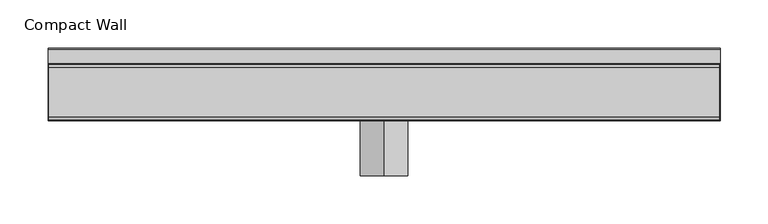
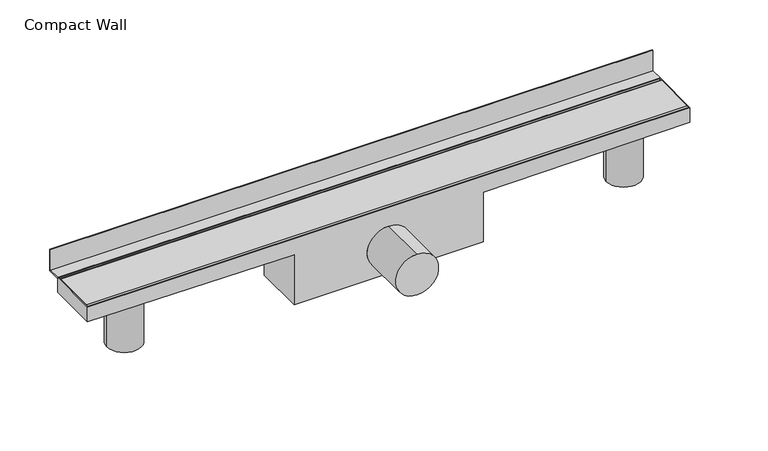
"""IFC4 building model written with IfcOpenShell, lengths in millimetres: sanitary terminal geometry, NLRS_PF_52_UN_Compact_Easydrain : Compact Wall."""

import ifcopenshell
import ifcopenshell.guid

model = None  # the IFC model being written
_history = None  # IfcOwnerHistory: only IFC2X3 demands one
_inside = {}  # id of a spatial element -> (the spatial element, [elements in it])
_under = {}  # id of a project, library or spatial element -> (it, [spatial elements below it])
_declared = {}  # id of a project -> (the project, [libraries it declares])
_typed = {}  # id of a type object -> (the type object, [elements of that type])
_made_of = {}  # id of a material, layer set ... -> (it, [elements and type objects made of it])


def new_model(schema):
    """Start an empty IFC model of exactly this schema.

    Asked for "IFC4X3", IfcOpenShell would pick the latest addendum, in which some entities
    have other attributes; the version numbers below select the first issue.
    IFC2X3 requires an IfcOwnerHistory on every rooted entity: one is made here for all.
    """
    global model, _history
    if schema == "IFC4X3":
        model = ifcopenshell.file(schema_version=(4, 3, 0, 0))
    else:
        model = ifcopenshell.file(schema=schema)
    _inside.clear()
    _under.clear()
    _declared.clear()
    _typed.clear()
    _made_of.clear()
    _history = None
    if model.schema == "IFC2X3":
        org = make("IfcOrganization", Name="unknown")
        user = make(
            "IfcPersonAndOrganization",
            ThePerson=make("IfcPerson", FamilyName="unknown"),
            TheOrganization=org,
        )
        app = make(
            "IfcApplication",
            ApplicationDeveloper=org,
            Version="unknown",
            ApplicationFullName="unknown",
            ApplicationIdentifier="unknown",
        )
        _history = make(
            "IfcOwnerHistory",
            OwningUser=user,
            OwningApplication=app,
            ChangeAction="ADDED",
            CreationDate=0,
        )
    return model


def make(cls, **values):
    """One entity of the class cls with the attributes given. An attribute that is None is left unset."""
    return model.create_entity(
        cls, **{name: value for name, value in values.items() if value is not None}
    )


def rooted(cls, **values):
    """An entity with a GlobalId (a new one), such as an element, a storey or a relation."""
    return make(cls, GlobalId=ifcopenshell.guid.new(), OwnerHistory=_history, **values)


def si_unit(unit_type, name, prefix=None):
    """IfcSIUnit, for example si_unit("LENGTHUNIT", "METRE", prefix="MILLI")."""
    return make("IfcSIUnit", UnitType=unit_type, Prefix=prefix, Name=name)


def assignment(units):
    """IfcUnitAssignment: the units of a project."""
    return None if units is None else make("IfcUnitAssignment", Units=units)


def point(xyz):
    """IfcCartesianPoint."""
    return None if xyz is None else make("IfcCartesianPoint", Coordinates=xyz)


def direction(xyz):
    """IfcDirection."""
    return None if xyz is None else make("IfcDirection", DirectionRatios=xyz)


def frame(location, z_axis=None, x_axis=None):
    """IfcAxis2Placement3D, a coordinate frame: its origin and axes. An axis left out is left unset."""
    return make(
        "IfcAxis2Placement3D",
        Location=point(location),
        Axis=direction(z_axis),
        RefDirection=direction(x_axis),
    )


def frame_2d(location, x_axis=None):
    """IfcAxis2Placement2D, a coordinate frame in the plane: its origin and x axis."""
    return make(
        "IfcAxis2Placement2D", Location=point(location), RefDirection=direction(x_axis)
    )


def origin():
    """The frame at (0, 0, 0) with its axes left unset."""
    return frame((0.0, 0.0, 0.0))


def place(relative_to, where):
    """IfcLocalPlacement: puts the frame where relative to a parent placement (None: the world)."""
    return make(
        "IfcLocalPlacement", PlacementRelTo=relative_to, RelativePlacement=where
    )


def context(
    kind, dimensions, precision=None, world=None, true_north=None, identifier=None
):
    """IfcGeometricRepresentationContext, for example the 3D "Model" context."""
    return make(
        "IfcGeometricRepresentationContext",
        ContextIdentifier=identifier,
        ContextType=kind,
        CoordinateSpaceDimension=dimensions,
        Precision=precision,
        WorldCoordinateSystem=world,
        TrueNorth=true_north,
    )


def project(units=None, contexts=None):
    """IfcProject with its units and contexts."""
    return rooted(
        "IfcProject",
        Name="project",
        RepresentationContexts=contexts,
        UnitsInContext=assignment(units),
    )


def spatial(cls, under=None, at=None, **own):
    """A site, building, storey or space (cls), placed at a placement, below another one or the project."""
    s = rooted(cls, ObjectPlacement=at, **own)
    if under is not None:
        _under.setdefault(under.id(), (under, []))[1].append(s)
    return s


def polyline(points):
    """IfcPolyline through the points."""
    return make("IfcPolyline", Points=[point(p) for p in points])


def circle_curve(where, radius):
    """IfcCircle in the frame where."""
    return make("IfcCircle", Position=where, Radius=radius)


def trimmed(basis, trim1, trim2, sense, master):
    """IfcTrimmedCurve: the piece of a basis curve between two trims."""
    return make(
        "IfcTrimmedCurve",
        BasisCurve=basis,
        Trim1=trim1,
        Trim2=trim2,
        SenseAgreement=sense,
        MasterRepresentation=master,
    )


def segment(curve, same_sense, transition):
    """IfcCompositeCurveSegment."""
    return make(
        "IfcCompositeCurveSegment",
        Transition=transition,
        SameSense=same_sense,
        ParentCurve=curve,
    )


def composite_curve(segments, self_intersect=None):
    """IfcCompositeCurve: segments joined end to end."""
    return make("IfcCompositeCurve", Segments=segments, SelfIntersect=self_intersect)


def outline(outer, holes=None, kind="AREA"):
    """IfcArbitraryClosedProfileDef: a profile drawn as a closed curve; with holes, ...WithVoids."""
    if holes is None:
        return make("IfcArbitraryClosedProfileDef", ProfileType=kind, OuterCurve=outer)
    return make(
        "IfcArbitraryProfileDefWithVoids",
        ProfileType=kind,
        OuterCurve=outer,
        InnerCurves=holes,
    )


def extrude(swept, where, along, depth):
    """IfcExtrudedAreaSolid: the profile swept, set in the frame where, extruded along a direction by depth."""
    return make(
        "IfcExtrudedAreaSolid",
        SweptArea=swept,
        Position=where,
        ExtrudedDirection=direction(along),
        Depth=depth,
    )


def shape(context_of_items, identifier, shape_type, items):
    """IfcShapeRepresentation: the items that make up one representation, for example the "Body"."""
    return make(
        "IfcShapeRepresentation",
        ContextOfItems=context_of_items,
        RepresentationIdentifier=identifier,
        RepresentationType=shape_type,
        Items=items,
    )


def source(mapping_origin, context_of_items, identifier, shape_type, items):
    """IfcRepresentationMap: a shape defined once, which mapped items show again and again."""
    return make(
        "IfcRepresentationMap",
        MappingOrigin=mapping_origin,
        MappedRepresentation=shape(context_of_items, identifier, shape_type, items),
    )


def transform(
    local_origin,
    x_axis=None,
    y_axis=None,
    z_axis=None,
    scale=None,
    scale2=None,
    scale3=None,
    uniform=True,
):
    """IfcCartesianTransformationOperator3D, or its non-uniform kind. x_axis, y_axis, z_axis: its Axis1, 2, 3."""
    if uniform:
        return make(
            "IfcCartesianTransformationOperator3D",
            Axis1=direction(x_axis),
            Axis2=direction(y_axis),
            LocalOrigin=point(local_origin),
            Scale=scale,
            Axis3=direction(z_axis),
        )
    return make(
        "IfcCartesianTransformationOperator3DnonUniform",
        Axis1=direction(x_axis),
        Axis2=direction(y_axis),
        LocalOrigin=point(local_origin),
        Scale=scale,
        Axis3=direction(z_axis),
        Scale2=scale2,
        Scale3=scale3,
    )


def mapped(mapping_source, mapping_target):
    """IfcMappedItem: shows the shape of a source again, moved by a transform."""
    return make(
        "IfcMappedItem", MappingSource=mapping_source, MappingTarget=mapping_target
    )


def made_of(thing, what):
    """Note that an element or type object is made of a material, layer set ...; save() writes the relation."""
    if what is not None:
        _made_of.setdefault(what.id(), (what, []))[1].append(thing)
    return thing


def element(
    cls,
    number,
    at=None,
    inside=None,
    cuts=None,
    type_object=None,
    material=None,
    context=None,
    identifier="Body",
    shape_type=None,
    held_by="IfcProductDefinitionShape",
    body=None,
    shapes=None,
    **own,
):
    """One element of the class cls, such as IfcWall. Its Tag is "e" and its number.

    at: its placement. inside: the storey or other place that contains it. cuts: it is an
    opening in that element (IfcRelVoidsElement). A single representation is given by context,
    identifier, shape_type and body (its items); several are given by shapes. held_by: the class
    of the entity that holds the representations. save() writes the other relations.
    """
    e = rooted(cls, Tag="e%d" % number, ObjectPlacement=at, **own)
    if body is not None:
        shapes = [shape(context, identifier, shape_type, body)]
    if shapes is not None:
        e.Representation = make(held_by, Representations=shapes)
    if inside is not None:
        _inside.setdefault(inside.id(), (inside, []))[1].append(e)
    if cuts is not None:
        rooted(
            "IfcRelVoidsElement", RelatingBuildingElement=cuts, RelatedOpeningElement=e
        )
    if type_object is not None:
        _typed.setdefault(type_object.id(), (type_object, []))[1].append(e)
    return made_of(e, material)


def aggregate(whole, parts):
    """IfcRelAggregates: a whole, such as a stair, and the parts it consists of."""
    return rooted("IfcRelAggregates", RelatingObject=whole, RelatedObjects=parts)


def save(model, path):
    """Write the relations noted so far, then the file.

    IfcRelAggregates (storeys below a building ...), IfcRelContainedInSpatialStructure (elements
    in a storey), IfcRelDefinesByType, IfcRelAssociatesMaterial and IfcRelDeclares: one each for
    every whole, place, type object, material and project.
    """
    for whole, parts in _under.values():
        aggregate(whole, parts)
    for where, things in _inside.values():
        rooted(
            "IfcRelContainedInSpatialStructure",
            RelatedElements=things,
            RelatingStructure=where,
        )
    for kind, things in _typed.values():
        rooted("IfcRelDefinesByType", RelatedObjects=things, RelatingType=kind)
    for what, things in _made_of.values():
        rooted("IfcRelAssociatesMaterial", RelatedObjects=things, RelatingMaterial=what)
    for by, libraries in _declared.values():
        rooted("IfcRelDeclares", RelatingContext=by, RelatedDefinitions=libraries)
    model.write(path)


def plane_surface(at):
    """IfcPlane: the flat surface through the origin of the frame at, square to its z axis."""
    return make("IfcPlane", Position=at)


def cylinder_surface(at, radius):
    """IfcCylindricalSurface: all points at the distance radius from the z axis of the frame at."""
    return make("IfcCylindricalSurface", Position=at, Radius=radius)


def advanced_brep(points, edges, surfaces, faces):
    """IfcAdvancedBrep: a solid bounded by faces that lie on surfaces and meet in shared edges.

    An edge is (start, end): straight between two places in points (the first is 0);
    or (start, end, curve); or (start, end, curve, False) where it runs against its curve.
    A face is (place in surfaces, loops), or (place, loops, False) where it looks against
    its surface's normal. A loop lists edges by number (the first is 1), with a minus sign
    where the edge is run from its end to its start. The first loop is the outer one.
    """
    corners = [point(p) for p in points]
    vertices = [make("IfcVertexPoint", VertexGeometry=c) for c in corners]
    made = []
    for start, end, *more in edges:
        made.append(
            make(
                "IfcEdgeCurve",
                EdgeStart=vertices[start],
                EdgeEnd=vertices[end],
                EdgeGeometry=more[0] if more else make("IfcPolyline", Points=[corners[start], corners[end]]),
                SameSense=more[1] if len(more) > 1 else True,
            )
        )
    hull = []
    for where, loops, *sense in faces:
        bounds = []
        for j, loop in enumerate(loops):
            ring = [make("IfcOrientedEdge", EdgeElement=made[abs(k) - 1], Orientation=k > 0) for k in loop]
            bounds.append(
                make(
                    "IfcFaceOuterBound" if j == 0 else "IfcFaceBound",
                    Bound=make("IfcEdgeLoop", EdgeList=ring),
                    Orientation=True,
                )
            )
        hull.append(make("IfcAdvancedFace", Bounds=bounds, FaceSurface=surfaces[where], SameSense=sense[0] if sense else True))
    return make("IfcAdvancedBrep", Outer=make("IfcClosedShell", CfsFaces=hull))


def compact_wall_7a272a64(model_context):
    return source(origin(), model_context, "Body", "SolidModel", [
        extrude(outline(composite_curve([segment(polyline([(-25.5, 0.0), (25.5, 0.0)]), True, "CONTINUOUS"), segment(trimmed(circle_curve(frame_2d((25.5, -3.0)), 3.0), [point((25.5, 0.0))], [point((28.5, -3.0))], False, "CARTESIAN"), True, "CONTINUOUS"), segment(polyline([(28.5, -3.0), (28.5, -12.0), (-28.5, -12.0), (-28.5, -3.0)]), True, "CONTINUOUS"), segment(trimmed(circle_curve(frame_2d((-25.5, -3.0)), 3.0), [point((-28.5, -3.0))], [point((-25.5, 0.0))], False, "CARTESIAN"), True, "CONTINUOUS")], self_intersect=False)), frame((-249.0, 0.0, 0.0), z_axis=(1.0, 0.0, 0.0), x_axis=(0.0, 1.0, 0.0)), (0.0, 0.0, 1.0), 698.0),
        extrude(outline(composite_curve([segment(trimmed(circle_curve(frame_2d((390.0, 0.0)), 20.0), [point((410.0, 0.0))], [point((370.0, 0.0))], False, "CARTESIAN"), True, "CONTINUOUS"), segment(trimmed(circle_curve(frame_2d((390.0, 0.0)), 20.0), [point((370.0, 0.0))], [point((410.0, 0.0))], False, "CARTESIAN"), True, "CONTINUOUS")], self_intersect=False)), frame((0.0, 0.0, -81.0), z_axis=(0.0, 0.0, 1.0), x_axis=(1.0, 0.0, 0.0)), (0.0, 0.0, 1.0), 63.0),
        extrude(outline(composite_curve([segment(trimmed(circle_curve(frame_2d((-190.0, 0.0)), 20.0), [point((-210.0, 0.0))], [point((-170.0, 0.0))], False, "CARTESIAN"), True, "CONTINUOUS"), segment(trimmed(circle_curve(frame_2d((-190.0, 0.0)), 20.0), [point((-170.0, 0.0))], [point((-210.0, 0.0))], False, "CARTESIAN"), True, "CONTINUOUS")], self_intersect=False)), frame((0.0, 0.0, -81.0), z_axis=(0.0, 0.0, 1.0), x_axis=(1.0, 0.0, 0.0)), (0.0, 0.0, 1.0), 63.0),
        extrude(outline(polyline([(46.0, -1.5), (30.0, -1.5), (30.0, 0.0), (44.5, 0.0), (44.5, 25.0), (46.0, 25.0), (46.0, -1.5)])), frame((-250.0, 0.0, 0.0), z_axis=(1.0, 0.0, 0.0), x_axis=(0.0, 1.0, 0.0)), (0.0, 0.0, 1.0), 700.0),
        advanced_brep(
        [(-250.0, -30.0, -18.0), (-10.0, -30.0, -20.0), (-10.0, -30.0, -81.0), (210.0, -30.0, -81.0), (210.0, -30.0, -20.0), (450.0, -30.0, -18.0), (450.0, -30.0, 0.0), (-250.0, -30.0, 0.0), (100.0, -30.0, -23.0), (100.0, -30.0, -73.0), (-250.0, 30.0, -18.0), (-250.0, 30.0, 0.0), (450.0, 30.0, 0.0), (450.0, 30.0, -18.0), (210.0, 30.0, -20.0), (210.0, 30.0, -81.0), (-10.0, 30.0, -81.0), (-10.0, 30.0, -20.0), (-249.0, 29.0, 0.0), (449.0, 29.0, 0.0), (449.0, -29.0, 0.0), (-249.0, -29.0, 0.0), (100.0, -87.0466767, -23.0), (100.0, -87.0466767, -73.0), (449.0, 29.0, -12.0), (-249.0, 29.0, -12.0), (-249.0, -29.0, -12.0), (449.0, -29.0, -12.0)],
        [
            (0, 1),
            (1, 2),
            (2, 3),
            (3, 4),
            (4, 5),
            (5, 6),
            (6, 7),
            (7, 0),
            (8, 9, circle_curve(frame((100.0, -30.0, -48.0), z_axis=(0.0, 1.0, 0.0), x_axis=(0.0, 0.0, -1.0)), 25.0)),
            (9, 8, circle_curve(frame((100.0, -30.0, -48.0), z_axis=(0.0, 1.0, 0.0), x_axis=(0.0, 0.0, -1.0)), 25.0)),
            (10, 11),
            (11, 12),
            (12, 13),
            (13, 14),
            (14, 15),
            (15, 16),
            (16, 17),
            (17, 10),
            (0, 10),
            (17, 1),
            (5, 13),
            (12, 6),
            (11, 7),
            (18, 19),
            (19, 20),
            (20, 21),
            (21, 18),
            (16, 2),
            (15, 3),
            (14, 4),
            (22, 23, circle_curve(frame((100.0, -87.0466767, -48.0), z_axis=(0.0, -1.0, 0.0), x_axis=(0.0, 0.0, -1.0)), 25.0)),
            (23, 22, circle_curve(frame((100.0, -87.0466767, -48.0), z_axis=(0.0, -1.0, 0.0), x_axis=(0.0, 0.0, -1.0)), 25.0)),
            (23, 9),
            (8, 22),
            (24, 25),
            (25, 26),
            (26, 27),
            (27, 24),
            (24, 19),
            (18, 25),
            (21, 26),
            (20, 27),
        ],
        [
            plane_surface(frame((-250.0, -30.0, -18.0), z_axis=(0.0, -1.0, 0.0), x_axis=(0.9999652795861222, 0.0, -0.008333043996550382))),
            plane_surface(frame((-250.0, 30.0, -18.0), z_axis=(0.0, 1.0, 0.0), x_axis=(-0.9999652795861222, 0.0, 0.008333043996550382))),
            plane_surface(frame((-250.0, -30.0, -18.0), z_axis=(-0.008333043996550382, 0.0, -0.9999652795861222), x_axis=(0.0, 1.0, 0.0))),
            plane_surface(frame((450.0, -30.0, -18.0), z_axis=(1.0, 0.0, 0.0), x_axis=(0.0, 1.0, 0.0))),
            plane_surface(frame((450.0, -30.0, 0.0), z_axis=(0.0, 0.0, 1.0), x_axis=(0.0, 1.0, 0.0))),
            plane_surface(frame((-250.0, -30.0, 0.0), z_axis=(-1.0, 0.0, 0.0), x_axis=(0.0, 1.0, 0.0))),
            plane_surface(frame((-10.0, -30.0, -20.0), z_axis=(-1.0, 0.0, 0.0), x_axis=(0.0, 1.0, 0.0))),
            plane_surface(frame((-10.0, -30.0, -81.0), z_axis=(0.0, 0.0, -1.0), x_axis=(0.0, 1.0, 0.0))),
            plane_surface(frame((210.0, -30.0, -81.0), z_axis=(1.0, 0.0, 0.0), x_axis=(0.0, 1.0, 0.0))),
            plane_surface(frame((210.0, -30.0, -20.0), z_axis=(0.008333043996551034, 0.0, -0.9999652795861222), x_axis=(0.0, 1.0, 0.0))),
            plane_surface(frame((100.0, -87.0466767, -48.0), z_axis=(0.0, -1.0, 0.0), x_axis=(1.0, 0.0, 0.0))),
            cylinder_surface(frame((100.0, 0.0, -48.0), z_axis=(0.0, 1.0, 0.0), x_axis=(0.0, 0.0, -1.0)), 25.0),
            plane_surface(frame((-249.0, 29.0, -12.0), z_axis=(0.0, 0.0, 1.0), x_axis=(1.0, 0.0, 0.0))),
            plane_surface(frame((449.0, 29.0, 0.0), z_axis=(0.0, -1.0, 0.0), x_axis=(0.0, 0.0, -1.0))),
            plane_surface(frame((-249.0, 29.0, 0.0), z_axis=(1.0, 0.0, 0.0), x_axis=(0.0, 0.0, -1.0))),
            plane_surface(frame((-249.0, -29.0, 0.0), z_axis=(0.0, 1.0, 0.0), x_axis=(0.0, 0.0, -1.0))),
            plane_surface(frame((449.0, -29.0, 0.0), z_axis=(-1.0, 0.0, 0.0), x_axis=(0.0, 0.0, -1.0))),
        ],
        [
            (0, [[1, 2, 3, 4, 5, 6, 7, 8], [9, 10]]),
            (1, [[11, 12, 13, 14, 15, 16, 17, 18]]),
            (2, [[-1, 19, -18, 20]]),
            (3, [[-6, 21, -13, 22]]),
            (4, [[-7, -22, -12, 23], [24, 25, 26, 27]]),
            (5, [[-8, -23, -11, -19]]),
            (6, [[-2, -20, -17, 28]]),
            (7, [[-3, -28, -16, 29]]),
            (8, [[-4, -29, -15, 30]]),
            (9, [[-5, -30, -14, -21]]),
            (10, [[31, 32]]),
            (11, [[-32, 33, -9, 34]]),
            (11, [[-31, -34, -10, -33]]),
            (12, [[35, 36, 37, 38]]),
            (13, [[-35, 39, -24, 40]]),
            (14, [[-36, -40, -27, 41]]),
            (15, [[-37, -41, -26, 42]]),
            (16, [[-38, -42, -25, -39]]),
        ],
    ),
    ])


if __name__ == "__main__":
    model = new_model("IFC4")
    model_context = context("Model", 3, world=origin())
    ifc_project = project(units=[si_unit("LENGTHUNIT", "METRE", prefix="MILLI")], contexts=[model_context])
    site = spatial("IfcSite", under=ifc_project)
    building = spatial("IfcBuilding", under=site)
    placement = place(None, origin())
    compact_wall_shape = compact_wall_7a272a64(model_context)
    element("IfcSanitaryTerminal", 1, ObjectType="NLRS_PF_52_UN_Compact_Easydrain : Compact Wall", at=placement, inside=building, context=model_context, shape_type="MappedRepresentation", body=[
        mapped(compact_wall_shape, transform((0.0, 0.0, 0.0), x_axis=(1.0, 0.0, 0.0), y_axis=(0.0, 1.0, 0.0), z_axis=(0.0, 0.0, 1.0))),
    ])
    save(model, "model.ifc")
